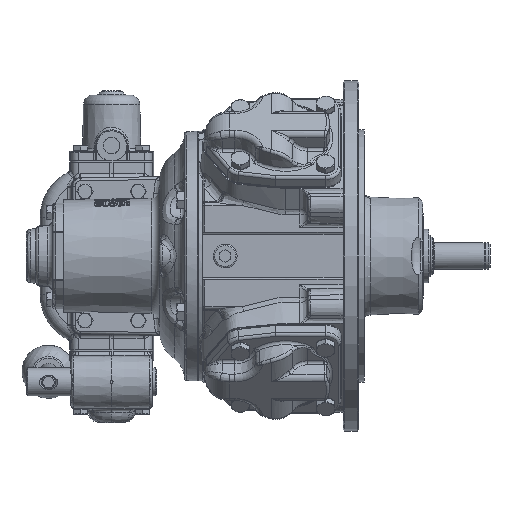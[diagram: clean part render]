
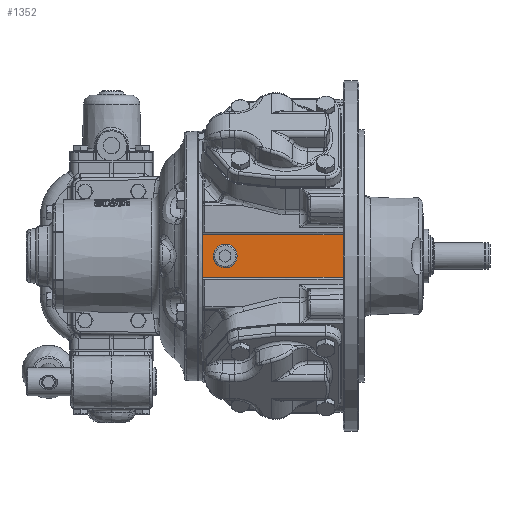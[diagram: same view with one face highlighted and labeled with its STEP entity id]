
A CAD part, front view. The second image highlights one B-rep face of the part: STEP entity #1352.
In plain terms, the highlighted planar face has unit normal (-0.018, -1, 0).
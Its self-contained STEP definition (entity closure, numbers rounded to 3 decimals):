
#1217 = VERTEX_POINT ( 'NONE', #70910 ) ;
#1223 = LINE ( 'NONE', #89241, #89007 ) ;
#1352 = ADVANCED_FACE ( 'NONE', ( #118676, #33489 ), #46942, .T. ) ;
#5465 = CARTESIAN_POINT ( 'NONE',  ( 41.3, -93.746, -15. ) ) ;
#6882 = VECTOR ( 'NONE', #109151, 1000. ) ;
#11893 = VERTEX_POINT ( 'NONE', #75198 ) ;
#14914 = CARTESIAN_POINT ( 'NONE',  ( -58.713, -92., 15. ) ) ;
#21962 = CARTESIAN_POINT ( 'NONE',  ( 41.3, -93.746, 17. ) ) ;
#22871 = ORIENTED_EDGE ( 'NONE', *, *, #112098, .T. ) ;
#33030 = CARTESIAN_POINT ( 'NONE',  ( -34.25, -92.427, 0. ) ) ;
#33489 = FACE_OUTER_BOUND ( 'NONE', #63875, .T. ) ;
#37259 = ORIENTED_EDGE ( 'NONE', *, *, #81959, .F. ) ;
#43677 = LINE ( 'NONE', #14914, #90175 ) ;
#44043 = EDGE_CURVE ( 'NONE', #69246, #69246, #68595, .T. ) ;
#45303 = DIRECTION ( 'NONE',  ( 1., -0.017, 0. ) ) ;
#46942 = PLANE ( 'NONE',  #176159 ) ;
#47408 = CARTESIAN_POINT ( 'NONE',  ( -34.25, -92.427, -16.9 ) ) ;
#50773 = CARTESIAN_POINT ( 'NONE',  ( -58.713, -92., 17. ) ) ;
#63875 = EDGE_LOOP ( 'NONE', ( #179563, #98084, #37259, #22871 ) ) ;
#65148 = LINE ( 'NONE', #50773, #6882 ) ;
#67048 = ORIENTED_EDGE ( 'NONE', *, *, #44043, .T. ) ;
#68595 =( BOUNDED_CURVE ( )  B_SPLINE_CURVE ( 3, ( #33030, #47408, #108558, #76986, #106678, #107623, #94154 ),
 .UNSPECIFIED., .T., .T. ) 
 B_SPLINE_CURVE_WITH_KNOTS ( ( 4, 3, 4 ),
 ( 0., 3.142, 6.283 ),
 .UNSPECIFIED. ) 
 CURVE ( )  GEOMETRIC_REPRESENTATION_ITEM ( )  RATIONAL_B_SPLINE_CURVE ( ( 1., 0.333, 0.333, 1., 0.333, 0.333, 1. ) ) 
 REPRESENTATION_ITEM ( '' )  );
#69246 = VERTEX_POINT ( 'NONE', #113276 ) ;
#70910 = CARTESIAN_POINT ( 'NONE',  ( 41.3, -93.746, 15. ) ) ;
#75198 = CARTESIAN_POINT ( 'NONE',  ( -58.713, -92., -15. ) ) ;
#76986 = CARTESIAN_POINT ( 'NONE',  ( -51.15, -92.132, 0. ) ) ;
#81959 = EDGE_CURVE ( 'NONE', #11893, #93287, #65148, .T. ) ;
#85130 = EDGE_CURVE ( 'NONE', #1217, #93287, #43677, .T. ) ;
#88994 = CARTESIAN_POINT ( 'NONE',  ( -58.713, -92., 15. ) ) ;
#89007 = VECTOR ( 'NONE', #45303, 1000. ) ;
#89241 = CARTESIAN_POINT ( 'NONE',  ( -8.706, -92.873, -15. ) ) ;
#90175 = VECTOR ( 'NONE', #157505, 1000. ) ;
#93287 = VERTEX_POINT ( 'NONE', #88994 ) ;
#93324 = EDGE_CURVE ( 'NONE', #1217, #151373, #138734, .T. ) ;
#94154 = CARTESIAN_POINT ( 'NONE',  ( -34.25, -92.427, 0. ) ) ;
#98084 = ORIENTED_EDGE ( 'NONE', *, *, #85130, .T. ) ;
#106218 = DIRECTION ( 'NONE',  ( 0., 0., -1. ) ) ;
#106678 = CARTESIAN_POINT ( 'NONE',  ( -51.15, -92.132, 16.9 ) ) ;
#107148 = DIRECTION ( 'NONE',  ( -0.017, -1., 0. ) ) ;
#107623 = CARTESIAN_POINT ( 'NONE',  ( -34.25, -92.427, 16.9 ) ) ;
#108558 = CARTESIAN_POINT ( 'NONE',  ( -51.15, -92.132, -16.9 ) ) ;
#109151 = DIRECTION ( 'NONE',  ( 0., 0., 1. ) ) ;
#112098 = EDGE_CURVE ( 'NONE', #11893, #151373, #1223, .T. ) ;
#113276 = CARTESIAN_POINT ( 'NONE',  ( -34.25, -92.427, 0. ) ) ;
#118676 = FACE_BOUND ( 'NONE', #172684, .T. ) ;
#138734 = LINE ( 'NONE', #21962, #152051 ) ;
#149285 = DIRECTION ( 'NONE',  ( 0., 0., 1. ) ) ;
#151373 = VERTEX_POINT ( 'NONE', #5465 ) ;
#152051 = VECTOR ( 'NONE', #106218, 1000. ) ;
#157505 = DIRECTION ( 'NONE',  ( -1., 0.017, 0. ) ) ;
#172684 = EDGE_LOOP ( 'NONE', ( #67048 ) ) ;
#176159 = AXIS2_PLACEMENT_3D ( 'NONE', #177048, #107148, #149285 ) ;
#177048 = CARTESIAN_POINT ( 'NONE',  ( -58.713, -92., 17. ) ) ;
#179563 = ORIENTED_EDGE ( 'NONE', *, *, #93324, .F. ) ;
